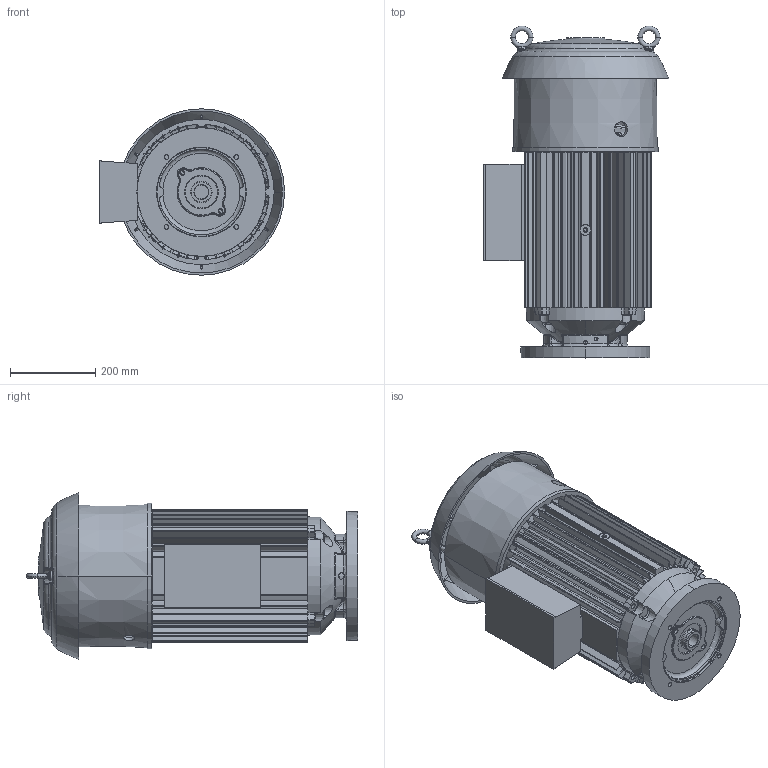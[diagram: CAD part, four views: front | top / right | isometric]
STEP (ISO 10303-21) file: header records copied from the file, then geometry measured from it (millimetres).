
FILE_DESCRIPTION((''),'2;1');
FILE_NAME('280TP_ASSY_ASM','2016-03-30T',('emd2341'),('Nidec Motor Corporation'),'PRO/ENGINEER BY PARAMETRIC TECHNOLOGY CORPORATION, 2013150','PRO/ENGINEER BY PARAMETRIC TECHNOLOGY CORPORATION, 2013150','');
FILE_SCHEMA(('CONFIG_CONTROL_DESIGN'));
Length unit declared in the file: inch
Products named in the file (9): 0348694; 0197031; 0171612; 0116910; SHAFT; 0197037-CAP; OBB; 0092999; 280TP_ASSY_ASM
Assembly tree (9 placements, depth 2):
  280TP_ASSY_ASM
    0348694
    0197031
    0171612
    0116910
    SHAFT
    0197037-CAP
    OBB
    0092999  x2
Bounding box: 434.86 x 779.32 x 390.65 mm (x, y, z)
Volume: 12409940.2 mm3; surface area: 2862614.5 mm2
Topology: 11 solids, 11 shells, 1705 faces, 4551 edges, 2844 vertices
Faces by surface type: cylinder 437, bspline 393, plane 342, cone 218, torus 186, extrusion 65, sphere 64
Entity records: 71949 total; most frequent: CARTESIAN_POINT 33175, ORIENTED_EDGE 8916, DIRECTION 7102, EDGE_CURVE 4458, AXIS2_PLACEMENT_3D 2935, VERTEX_POINT 2812, EDGE_LOOP 1798, CIRCLE 1686
